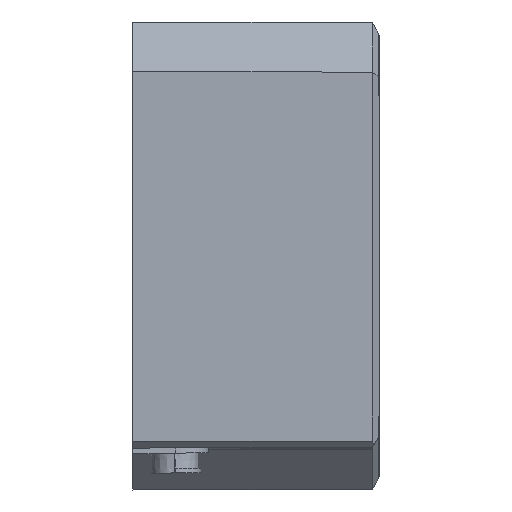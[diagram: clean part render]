
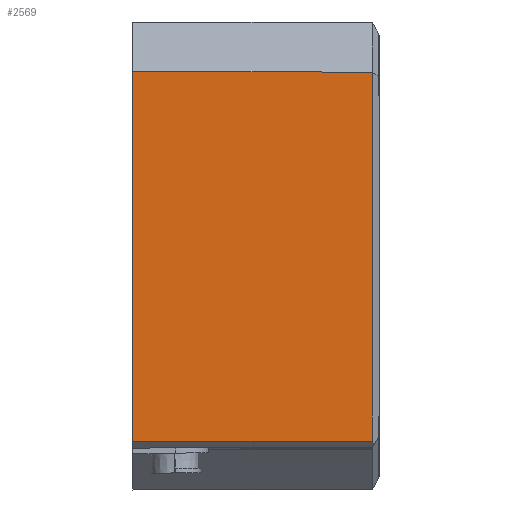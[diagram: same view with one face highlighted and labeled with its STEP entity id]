
A CAD part, left-side view. The second image highlights one B-rep face of the part: STEP entity #2569.
In plain terms, the highlighted planar face has unit normal (-1, -0.004, 0).
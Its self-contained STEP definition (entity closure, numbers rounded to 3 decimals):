
#2535 = VERTEX_POINT ( 'NONE', #25716 ) ;
#2557 = ORIENTED_EDGE ( 'NONE', *, *, #20634, .T. ) ;
#2560 = VERTEX_POINT ( 'NONE', #25722 ) ;
#2561 = EDGE_LOOP ( 'NONE', ( #2563, #2557, #2598, #2612, #2577 ) ) ;
#2563 = ORIENTED_EDGE ( 'NONE', *, *, #2568, .T. ) ;
#2568 = EDGE_CURVE ( 'NONE', #2535, #20590, #25760, .T. ) ;
#2569 = ADVANCED_FACE ( 'NONE', ( #25719 ), #25764, .T. ) ;
#2571 = VERTEX_POINT ( 'NONE', #25781 ) ;
#2573 = EDGE_CURVE ( 'NONE', #20604, #2571, #25776, .T. ) ;
#2577 = ORIENTED_EDGE ( 'NONE', *, *, #2610, .T. ) ;
#2598 = ORIENTED_EDGE ( 'NONE', *, *, #2573, .T. ) ;
#2610 = EDGE_CURVE ( 'NONE', #2560, #2535, #25826, .T. ) ;
#2612 = ORIENTED_EDGE ( 'NONE', *, *, #2625, .T. ) ;
#2625 = EDGE_CURVE ( 'NONE', #2571, #2560, #25868, .T. ) ;
#20590 = VERTEX_POINT ( 'NONE', #22057 ) ;
#20604 = VERTEX_POINT ( 'NONE', #22092 ) ;
#20634 = EDGE_CURVE ( 'NONE', #20590, #20604, #22102, .T. ) ;
#22057 = CARTESIAN_POINT ( 'NONE',  ( -94.852, 100., 74.852 ) ) ;
#22092 = CARTESIAN_POINT ( 'NONE',  ( -94.852, 100., -75.352 ) ) ;
#22101 = CARTESIAN_POINT ( 'NONE',  ( -94.852, 100., 95.25 ) ) ;
#22102 = LINE ( 'NONE', #22101, #22140 ) ;
#22139 = DIRECTION ( 'NONE',  ( 0., 0., -1. ) ) ;
#22140 = VECTOR ( 'NONE', #22139, 1000. ) ;
#25716 = CARTESIAN_POINT ( 'NONE',  ( -94.513, 2.895, 74.513 ) ) ;
#25719 = FACE_OUTER_BOUND ( 'NONE', #2561, .T. ) ;
#25722 = CARTESIAN_POINT ( 'NONE',  ( -94.513, 2.893, 74.507 ) ) ;
#25760 = LINE ( 'NONE', #25766, #25788 ) ;
#25761 = DIRECTION ( 'NONE',  ( -1., -0.003, 0. ) ) ;
#25764 = PLANE ( 'NONE',  #25787 ) ;
#25765 = DIRECTION ( 'NONE',  ( -0.003, 1., 0.003 ) ) ;
#25766 = CARTESIAN_POINT ( 'NONE',  ( -95.25, 214.07, 75.25 ) ) ;
#25767 = CARTESIAN_POINT ( 'NONE',  ( -95.25, 214., 95.25 ) ) ;
#25773 = DIRECTION ( 'NONE',  ( 0.003, -1., 0.003 ) ) ;
#25774 = VECTOR ( 'NONE', #25773, 1000. ) ;
#25775 = CARTESIAN_POINT ( 'NONE',  ( -95.248, 213.403, -75.748 ) ) ;
#25776 = LINE ( 'NONE', #25775, #25774 ) ;
#25781 = CARTESIAN_POINT ( 'NONE',  ( -94.513, 2.893, -75.013 ) ) ;
#25782 = DIRECTION ( 'NONE',  ( 0.003, -1., 0. ) ) ;
#25787 = AXIS2_PLACEMENT_3D ( 'NONE', #25767, #25761, #25782 ) ;
#25788 = VECTOR ( 'NONE', #25765, 1000. ) ;
#25822 = CARTESIAN_POINT ( 'NONE',  ( -94.403, -28.582, -2.48 ) ) ;
#25826 = LINE ( 'NONE', #25822, #25876 ) ;
#25855 = DIRECTION ( 'NONE',  ( 0., 0., 1. ) ) ;
#25856 = VECTOR ( 'NONE', #25855, 1000. ) ;
#25867 = CARTESIAN_POINT ( 'NONE',  ( -94.513, 2.893, 67.432 ) ) ;
#25868 = LINE ( 'NONE', #25867, #25856 ) ;
#25875 = DIRECTION ( 'NONE',  ( -0.001, 0.378, 0.926 ) ) ;
#25876 = VECTOR ( 'NONE', #25875, 1000. ) ;
